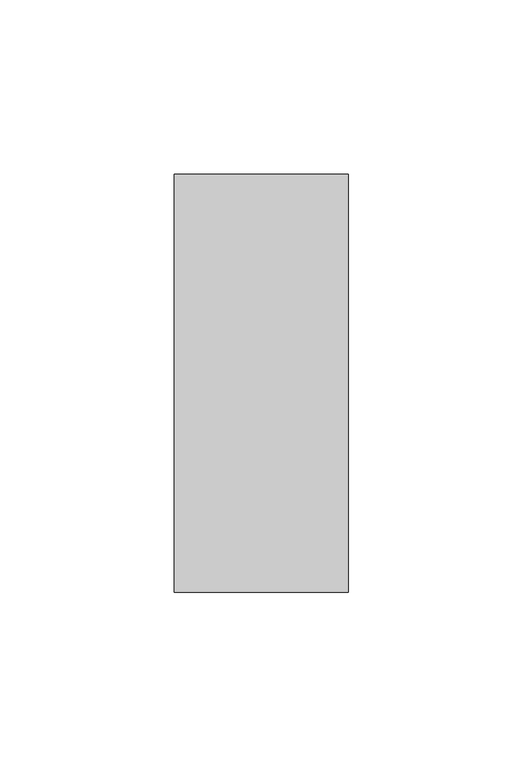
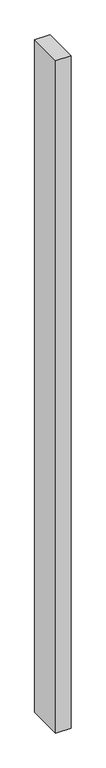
"""IFC4 building model written with IfcOpenShell, lengths in millimetres: member geometry, Прямоугольный импост : 50х120 мм."""

from ifc_helpers import new_model, si_unit, frame, origin, place, context, project, spatial, polyline, outline, extrude, source, transform, mapped, element, save


def member_ea9aa2e4(model_context):
    return source(origin(), model_context, "Body", "SweptSolid", [
        extrude(outline(polyline([(25.0, 60.0), (25.0, -60.0), (-25.0, -60.0), (-25.0, 60.0), (25.0, 60.0)])), frame((0.0, 0.0, -2340.0), z_axis=(0.0, 0.0, 1.0), x_axis=(1.0, 0.0, 0.0)), (0.0, 0.0, 1.0), 2340.0),
    ])


if __name__ == "__main__":
    model = new_model("IFC4")
    model_context = context("Model", 3, world=origin())
    ifc_project = project(units=[si_unit("LENGTHUNIT", "METRE", prefix="MILLI")], contexts=[model_context])
    site = spatial("IfcSite", under=ifc_project)
    building = spatial("IfcBuilding", under=site)
    placement = place(None, origin())
    member_shape = member_ea9aa2e4(model_context)
    element("IfcMember", 1, ObjectType="Прямоугольный импост : 50х120 мм", at=placement, inside=building, context=model_context, shape_type="MappedRepresentation", body=[
        mapped(member_shape, transform((0.0, 0.0, 0.0), x_axis=(1.0, 0.0, 0.0), y_axis=(0.0, 1.0, 0.0), z_axis=(0.0, 0.0, 1.0))),
    ])
    save(model, "model.ifc")
